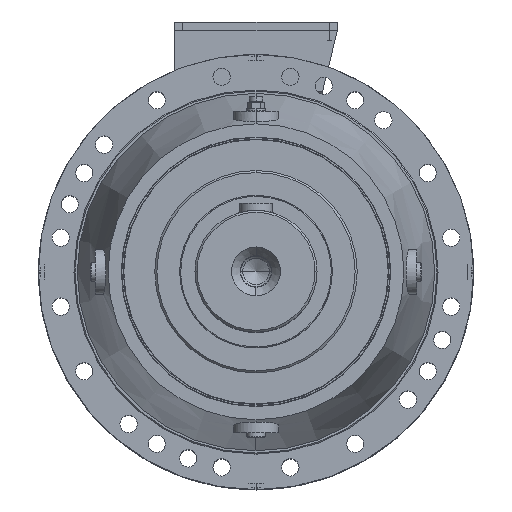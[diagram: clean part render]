
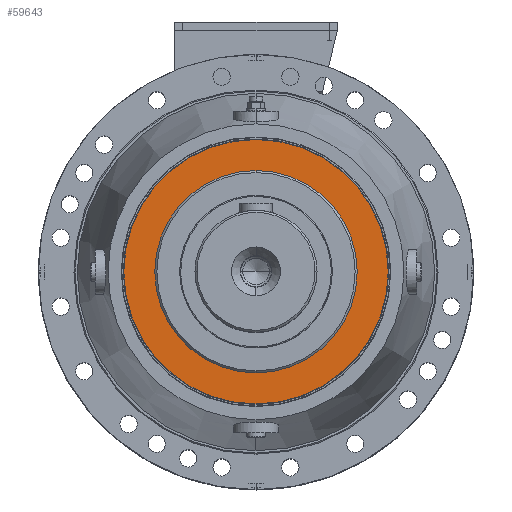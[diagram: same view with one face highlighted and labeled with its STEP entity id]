
A CAD part, top view. The second image highlights one B-rep face of the part: STEP entity #59643.
In plain terms, the highlighted planar face has unit normal (0, 0, 1).
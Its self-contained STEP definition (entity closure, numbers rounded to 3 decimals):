
#226 = CIRCLE ( 'NONE', #154251, 130. ) ;
#549 = CIRCLE ( 'NONE', #154182, 99.5 ) ;
#33908 = ORIENTED_EDGE ( 'NONE', *, *, #127014, .F. ) ;
#33956 = ORIENTED_EDGE ( 'NONE', *, *, #53282, .F. ) ;
#33994 = ORIENTED_EDGE ( 'NONE', *, *, #127114, .F. ) ;
#34994 = ORIENTED_EDGE ( 'NONE', *, *, #53208, .F. ) ;
#47440 = AXIS2_PLACEMENT_3D ( 'NONE', #60416, #60453, #60441 ) ;
#49031 = EDGE_LOOP ( 'NONE', ( #33908, #34994 ) ) ;
#49032 = EDGE_LOOP ( 'NONE', ( #33956, #33994 ) ) ;
#53208 = EDGE_CURVE ( 'NONE', #139007, #139058, #226, .T. ) ;
#53282 = EDGE_CURVE ( 'NONE', #139081, #139068, #549, .T. ) ;
#59643 = ADVANCED_FACE ( 'NONE', ( #117141, #117162 ), #60467, .F. ) ;
#60416 = CARTESIAN_POINT ( 'NONE',  ( 0., 130., 203. ) ) ;
#60441 = DIRECTION ( 'NONE',  ( 0., 1., 0. ) ) ;
#60453 = DIRECTION ( 'NONE',  ( 0., 0., -1. ) ) ;
#60467 = PLANE ( 'NONE',  #47440 ) ;
#83702 = CIRCLE ( 'NONE', #101288, 99.5 ) ;
#86113 = CIRCLE ( 'NONE', #101257, 130. ) ;
#101257 = AXIS2_PLACEMENT_3D ( 'NONE', #110108, #110125, #110111 ) ;
#101288 = AXIS2_PLACEMENT_3D ( 'NONE', #108106, #108074, #108019 ) ;
#108019 = DIRECTION ( 'NONE',  ( 0., 1., 0. ) ) ;
#108074 = DIRECTION ( 'NONE',  ( 0., 0., 1. ) ) ;
#108106 = CARTESIAN_POINT ( 'NONE',  ( 0., 0., 203. ) ) ;
#110108 = CARTESIAN_POINT ( 'NONE',  ( 0., 0., 203. ) ) ;
#110111 = DIRECTION ( 'NONE',  ( 0., 1., 0. ) ) ;
#110125 = DIRECTION ( 'NONE',  ( 0., 0., -1. ) ) ;
#117141 = FACE_BOUND ( 'NONE', #49032, .T. ) ;
#117162 = FACE_OUTER_BOUND ( 'NONE', #49031, .T. ) ;
#118379 = DIRECTION ( 'NONE',  ( 0., 1., 0. ) ) ;
#118409 = CARTESIAN_POINT ( 'NONE',  ( 0., 0., 203. ) ) ;
#118413 = DIRECTION ( 'NONE',  ( 0., 0., -1. ) ) ;
#118475 = DIRECTION ( 'NONE',  ( 0., 0., 1. ) ) ;
#118483 = CARTESIAN_POINT ( 'NONE',  ( 0., 0., 203. ) ) ;
#118487 = DIRECTION ( 'NONE',  ( 0., 1., 0. ) ) ;
#127014 = EDGE_CURVE ( 'NONE', #139058, #139007, #86113, .T. ) ;
#127114 = EDGE_CURVE ( 'NONE', #139068, #139081, #83702, .T. ) ;
#136266 = CARTESIAN_POINT ( 'NONE',  ( 0., -130., 203. ) ) ;
#136495 = CARTESIAN_POINT ( 'NONE',  ( 0., -99.5, 203. ) ) ;
#136535 = CARTESIAN_POINT ( 'NONE',  ( 0., 99.5, 203. ) ) ;
#136579 = CARTESIAN_POINT ( 'NONE',  ( 0., 130., 203. ) ) ;
#139007 = VERTEX_POINT ( 'NONE', #136266 ) ;
#139058 = VERTEX_POINT ( 'NONE', #136579 ) ;
#139068 = VERTEX_POINT ( 'NONE', #136495 ) ;
#139081 = VERTEX_POINT ( 'NONE', #136535 ) ;
#154182 = AXIS2_PLACEMENT_3D ( 'NONE', #118483, #118475, #118487 ) ;
#154251 = AXIS2_PLACEMENT_3D ( 'NONE', #118409, #118413, #118379 ) ;
